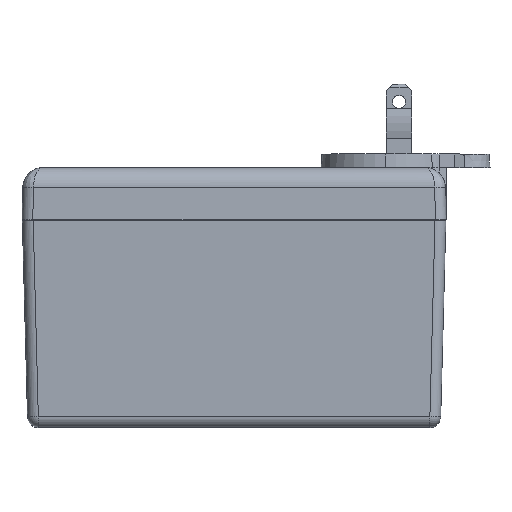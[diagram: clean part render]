
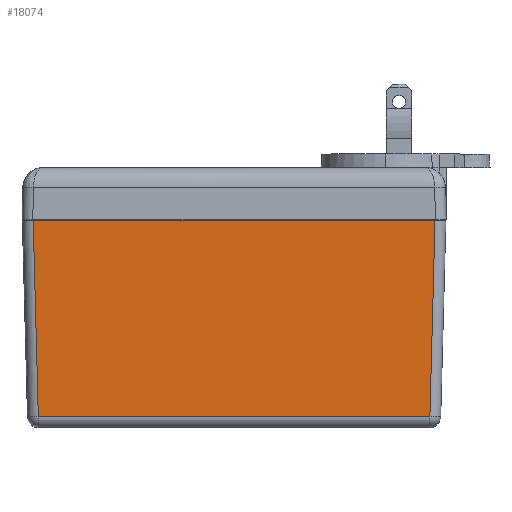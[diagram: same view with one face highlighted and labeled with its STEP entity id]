
A CAD part, top view. The second image highlights one B-rep face of the part: STEP entity #18074.
In plain terms, the highlighted planar face has unit normal (0, -0.026, 1).
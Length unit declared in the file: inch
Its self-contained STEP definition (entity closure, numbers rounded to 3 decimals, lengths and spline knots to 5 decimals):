
#72 = FACE_OUTER_BOUND ( 'NONE', #17446, .T. ) ;
#1274 = EDGE_CURVE ( 'NONE', #4710, #4702, #15808, .T. ) ;
#1288 = EDGE_CURVE ( 'NONE', #4702, #4956, #15731, .T. ) ;
#1289 = EDGE_CURVE ( 'NONE', #4898, #4710, #15729, .T. ) ;
#1290 = EDGE_CURVE ( 'NONE', #4898, #4956, #15727, .T. ) ;
#2568 = DIRECTION ( 'NONE',  ( 1., 0., 0. ) ) ;
#2569 = CARTESIAN_POINT ( 'NONE',  ( -2.0545, 0., 1.116 ) ) ;
#2570 = DIRECTION ( 'NONE',  ( 0.026, -0.999, -0.026 ) ) ;
#2571 = CARTESIAN_POINT ( 'NONE',  ( -1.94961, 0.00274, 1.11607 ) ) ;
#2572 = DIRECTION ( 'NONE',  ( 0.026, 0.999, 0.026 ) ) ;
#2573 = CARTESIAN_POINT ( 'NONE',  ( 1.94679, -0.10471, 1.11326 ) ) ;
#2615 = DIRECTION ( 'NONE',  ( 1., 0., 0. ) ) ;
#2626 = CARTESIAN_POINT ( 'NONE',  ( -2.0545, -1.90275, 1.06617 ) ) ;
#4702 = VERTEX_POINT ( 'NONE', #15538 ) ;
#4710 = VERTEX_POINT ( 'NONE', #15523 ) ;
#4898 = VERTEX_POINT ( 'NONE', #15138 ) ;
#4956 = VERTEX_POINT ( 'NONE', #15025 ) ;
#7230 = DIRECTION ( 'NONE',  ( 0., -1., -0.026 ) ) ;
#7231 = DIRECTION ( 'NONE',  ( 0., -0.026, 1. ) ) ;
#7233 = PLANE ( 'NONE',  #9799 ) ;
#7234 = CARTESIAN_POINT ( 'NONE',  ( -2.0545, 0., 1.116 ) ) ;
#9799 = AXIS2_PLACEMENT_3D ( 'NONE', #7234, #7231, #7230 ) ;
#15025 = CARTESIAN_POINT ( 'NONE',  ( 1.94954, 0., 1.116 ) ) ;
#15138 = CARTESIAN_POINT ( 'NONE',  ( -1.94954, 0., 1.116 ) ) ;
#15523 = CARTESIAN_POINT ( 'NONE',  ( -1.89971, -1.90275, 1.06617 ) ) ;
#15538 = CARTESIAN_POINT ( 'NONE',  ( 1.89971, -1.90275, 1.06617 ) ) ;
#15725 = VECTOR ( 'NONE', #2568, 39.37008 ) ;
#15727 = LINE ( 'NONE', #2569, #15725 ) ;
#15728 = VECTOR ( 'NONE', #2570, 39.37008 ) ;
#15729 = LINE ( 'NONE', #2571, #15728 ) ;
#15730 = VECTOR ( 'NONE', #2572, 39.37008 ) ;
#15731 = LINE ( 'NONE', #2573, #15730 ) ;
#15808 = LINE ( 'NONE', #2626, #15815 ) ;
#15815 = VECTOR ( 'NONE', #2615, 39.37008 ) ;
#17446 = EDGE_LOOP ( 'NONE', ( #17801, #17800, #17799, #17798 ) ) ;
#17798 = ORIENTED_EDGE ( 'NONE', *, *, #1289, .T. ) ;
#17799 = ORIENTED_EDGE ( 'NONE', *, *, #1290, .F. ) ;
#17800 = ORIENTED_EDGE ( 'NONE', *, *, #1288, .T. ) ;
#17801 = ORIENTED_EDGE ( 'NONE', *, *, #1274, .T. ) ;
#18074 = ADVANCED_FACE ( 'NONE', ( #72 ), #7233, .T. ) ;
